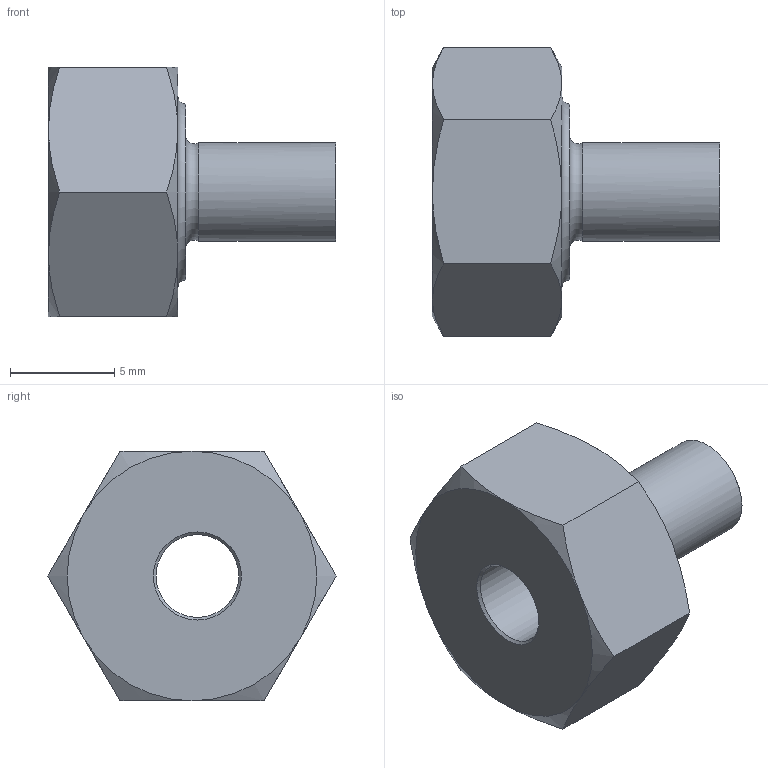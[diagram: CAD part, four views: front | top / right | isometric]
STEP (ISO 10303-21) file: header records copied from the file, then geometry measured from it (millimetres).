
FILE_DESCRIPTION( ( 'STEP AP214' ), '1' );
FILE_NAME( 'p:/temp/worker_53/temp/app_47_02019012316252233454259192d056f_000000_00_00_000000/format_0/MBX1SS.stp', '2019-01-23T15:25:23', ( '' ), ( '' ), ' ', 'PARTsolutions', ' ' );
FILE_SCHEMA( ( 'AUTOMOTIVE_DESIGN { 1 0 10303 214 1 1 1 1 }' ) );
Length unit declared in the file: inch
Products named in the file (1): _MBX1SS
Bounding box: 13.8 x 13.86 x 12 mm (x, y, z)
Volume: 749.9 mm3; surface area: 753.6 mm2
Topology: 1 solids, 1 shells, 28 faces, 60 edges, 35 vertices
Faces by surface type: cone 14, plane 10, cylinder 2, torus 2
Full cylindrical faces by diameter (mm): 3.98 x1, 4.75 x1
Entity records: 1017 total; most frequent: CARTESIAN_POINT 240, DIRECTION 106, ORIENTED_EDGE 104, EDGE_CURVE 52, AXIS2_PLACEMENT_3D 50, EDGE_LOOP 37, VERTEX_POINT 33, FACE_OUTER_BOUND 32
